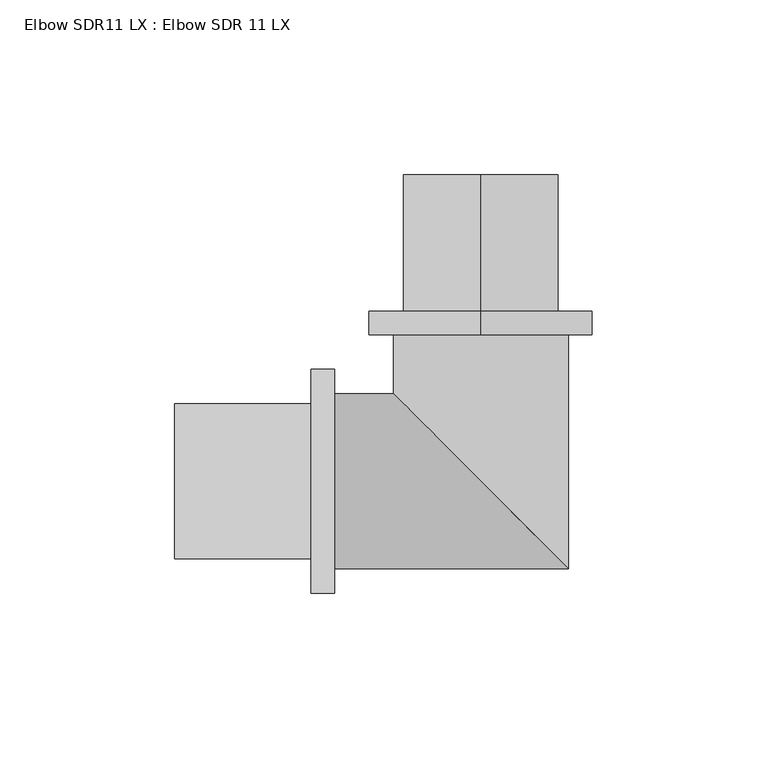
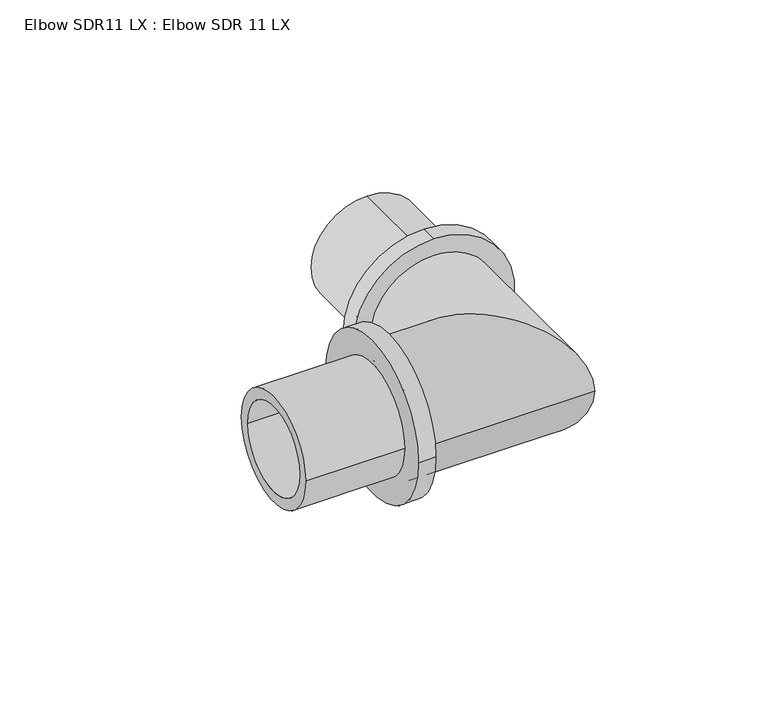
"""IFC4 building model written with IfcOpenShell, lengths in millimetres: pipe fitting geometry, Elbow SDR11 LX : Elbow SDR 11 LX."""

from ifc_helpers import new_model, si_unit, frame, origin, place, context, project, spatial, polyline, circle_curve, ellipse_curve, source, transform, mapped, element, save
from ifc_brep_helpers import plane_surface, cylinder_surface, revolved_surface, advanced_brep


def elbow_sdr11_lx_elbow_sdr_11_lx_6126e5dd(model_context):
    return source(origin(), model_context, "Body", "AdvancedBrep", [
        advanced_brep(
        [(-41.8, -25.0, 0.0), (-41.8, 25.0, 0.0), (-41.8, -17.75, 0.0), (-41.8, 17.75, 0.0), (25.0, -25.0, 0.0), (-25.0, 25.0, 0.0), (17.75, -17.75, 0.0), (-17.75, 17.75, 0.0), (25.0, 41.8, 0.0), (-25.0, 41.8, 0.0), (17.75, 41.8, 0.0), (-17.75, 41.8, 0.0)],
        [
            (0, 1, circle_curve(frame((-41.8, 0.0, 0.0), z_axis=(-1.0, 0.0, 0.0), x_axis=(0.0, 1.0, 0.0)), 25.0)),
            (1, 0, circle_curve(frame((-41.8, 0.0, 0.0), z_axis=(-1.0, 0.0, 0.0), x_axis=(0.0, 1.0, 0.0)), 25.0)),
            (2, 3, circle_curve(frame((-41.8, 0.0, 0.0), z_axis=(1.0, 0.0, 0.0), x_axis=(0.0, 1.0, 0.0)), 17.75)),
            (3, 2, circle_curve(frame((-41.8, 0.0, 0.0), z_axis=(1.0, 0.0, 0.0), x_axis=(0.0, 1.0, 0.0)), 17.75)),
            (0, 4),
            (4, 5, ellipse_curve(frame((0.0, 0.0, 0.0), z_axis=(-0.7071067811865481, -0.7071067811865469, 0.0), x_axis=(-0.7071067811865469, 0.7071067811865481, 0.0)), 35.3553391, 25.0)),
            (5, 1),
            (5, 4, ellipse_curve(frame((0.0, 0.0, 0.0), z_axis=(-0.7071067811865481, -0.7071067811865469, 0.0), x_axis=(-0.7071067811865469, 0.7071067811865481, 0.0)), 35.3553391, 25.0)),
            (2, 6),
            (6, 7, ellipse_curve(frame((0.0, 0.0, 0.0), z_axis=(0.7071067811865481, 0.7071067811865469, 0.0), x_axis=(0.7071067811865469, -0.7071067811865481, 0.0)), 25.1022907, 17.75)),
            (7, 3),
            (7, 6, ellipse_curve(frame((0.0, 0.0, 0.0), z_axis=(0.7071067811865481, 0.7071067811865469, 0.0), x_axis=(0.7071067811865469, -0.7071067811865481, 0.0)), 25.1022907, 17.75)),
            (8, 9, circle_curve(frame((0.0, 41.8, 0.0), z_axis=(0.0, 1.0, 0.0), x_axis=(-1.0, 0.0, 0.0)), 25.0)),
            (9, 8, circle_curve(frame((0.0, 41.8, 0.0), z_axis=(0.0, 1.0, 0.0), x_axis=(-1.0, 0.0, 0.0)), 25.0)),
            (10, 11, circle_curve(frame((0.0, 41.8, 0.0), z_axis=(0.0, -1.0, 0.0), x_axis=(-1.0, 0.0, 0.0)), 17.75)),
            (11, 10, circle_curve(frame((0.0, 41.8, 0.0), z_axis=(0.0, -1.0, 0.0), x_axis=(-1.0, 0.0, 0.0)), 17.75)),
            (4, 8),
            (9, 5),
            (6, 10),
            (11, 7),
        ],
        [
            plane_surface(frame((-41.8, 0.0, 0.0), z_axis=(-1.0, 0.0, 0.0), x_axis=(0.0, 0.0, 1.0))),
            cylinder_surface(frame((-41.8, 0.0, 0.0), z_axis=(-1.0, 0.0, 0.0), x_axis=(0.0, 1.0, 0.0)), 25.0),
            revolved_surface(polyline([(17.75, 17.75, 0.0), (-41.8, 17.75, 0.0)]), (-41.8, 0.0, 0.0), (1.0, 0.0, 0.0)),
            plane_surface(frame((0.0, 41.8, 0.0), z_axis=(0.0, 1.0, 0.0), x_axis=(0.0, 0.0, 1.0))),
            cylinder_surface(frame((0.0, 0.0, 0.0), z_axis=(0.0, -1.0, 0.0), x_axis=(-1.0, 0.0, 0.0)), 25.0),
            revolved_surface(polyline([(-17.75, 41.8, 0.0), (-17.75, -17.75, 0.0)]), (0.0, 0.0, 0.0), (0.0, 1.0, 0.0)),
        ],
        [
            (0, [[1, 2], [3, 4]]),
            (1, [[-1, 5, 6, 7]]),
            (1, [[-2, -7, 8, -5]]),
            (2, [[-3, 9, 10, 11]]),
            (2, [[-4, -11, 12, -9]]),
            (3, [[13, 14], [15, 16]]),
            (4, [[-6, 17, -14, 18]]),
            (4, [[-8, -18, -13, -17]]),
            (5, [[-10, 19, -16, 20]]),
            (5, [[-12, -20, -15, -19]]),
        ],
    ),
        advanced_brep(
        [(0.0, 87.5, 17.75), (0.0, 87.5, -17.75), (0.0, 41.8, -17.75), (0.0, 41.8, 17.75), (0.0, 48.5, 22.15), (0.0, 48.5, -22.15), (0.0, 87.5, -22.15), (0.0, 87.5, 22.15), (0.0, 41.8, 32.0), (0.0, 41.8, -32.0), (0.0, 48.5, -32.0), (0.0, 48.5, 32.0)],
        [
            (0, 1, circle_curve(frame((0.0, 87.5, 0.0), z_axis=(0.0, 1.0, 0.0), x_axis=(0.0, 0.0, -1.0)), 17.75)),
            (1, 2),
            (2, 3, circle_curve(frame((0.0, 41.8, 0.0), z_axis=(0.0, -1.0, 0.0), x_axis=(0.0, 0.0, -1.0)), 17.75)),
            (3, 0),
            (4, 5, circle_curve(frame((0.0, 48.5, 0.0), z_axis=(0.0, 1.0, 0.0), x_axis=(0.0, 0.0, -1.0)), 22.15)),
            (5, 6),
            (6, 7, circle_curve(frame((0.0, 87.5, 0.0), z_axis=(0.0, -1.0, 0.0), x_axis=(0.0, 0.0, -1.0)), 22.15)),
            (7, 4),
            (8, 9, circle_curve(frame((0.0, 41.8, 0.0), z_axis=(0.0, 1.0, 0.0), x_axis=(0.0, 0.0, -1.0)), 32.0)),
            (9, 10),
            (10, 11, circle_curve(frame((0.0, 48.5, 0.0), z_axis=(0.0, -1.0, 0.0), x_axis=(0.0, 0.0, -1.0)), 32.0)),
            (11, 8),
            (1, 0, circle_curve(frame((0.0, 87.5, 0.0), z_axis=(0.0, 1.0, 0.0), x_axis=(0.0, 0.0, 1.0)), 17.75)),
            (3, 2, circle_curve(frame((0.0, 41.8, 0.0), z_axis=(0.0, -1.0, 0.0), x_axis=(0.0, 0.0, 1.0)), 17.75)),
            (6, 7, circle_curve(frame((0.0, 87.5, 0.0), z_axis=(0.0, 1.0, 0.0), x_axis=(0.0, 0.0, 1.0)), 22.15)),
            (5, 4, circle_curve(frame((0.0, 48.5, 0.0), z_axis=(0.0, 1.0, 0.0), x_axis=(0.0, 0.0, 1.0)), 22.15)),
            (10, 11, circle_curve(frame((0.0, 48.5, 0.0), z_axis=(0.0, 1.0, 0.0), x_axis=(0.0, 0.0, 1.0)), 32.0)),
            (9, 8, circle_curve(frame((0.0, 41.8, 0.0), z_axis=(0.0, 1.0, 0.0), x_axis=(0.0, 0.0, 1.0)), 32.0)),
        ],
        [
            revolved_surface(polyline([(0.0, 41.8, -17.75), (0.0, 87.5, -17.75)]), (0.0, 0.0, 0.0), (0.0, -1.0, 0.0)),
            cylinder_surface(frame((0.0, 0.0, 0.0), z_axis=(0.0, -1.0, 0.0), x_axis=(0.0, 0.0, -1.0)), 22.15),
            cylinder_surface(frame((0.0, 0.0, 0.0), z_axis=(0.0, -1.0, 0.0), x_axis=(0.0, 0.0, -1.0)), 32.0),
            revolved_surface(polyline([(0.0, 41.8, 17.75), (0.0, 87.5, 17.75)]), (0.0, 0.0, 0.0), (0.0, -1.0, 0.0)),
            plane_surface(frame((0.0, 87.5, 0.0), z_axis=(0.0, 1.0, 0.0), x_axis=(0.0, 0.0, 1.0))),
            cylinder_surface(frame((0.0, 0.0, 0.0), z_axis=(0.0, -1.0, 0.0), x_axis=(0.0, 0.0, 1.0)), 22.15),
            plane_surface(frame((0.0, 48.5, 0.0), z_axis=(0.0, 1.0, 0.0), x_axis=(0.0, 0.0, 1.0))),
            cylinder_surface(frame((0.0, 0.0, 0.0), z_axis=(0.0, -1.0, 0.0), x_axis=(0.0, 0.0, 1.0)), 32.0),
            plane_surface(frame((0.0, 41.8, 0.0), z_axis=(0.0, -1.0, 0.0), x_axis=(0.0, 0.0, 1.0))),
        ],
        [
            (0, [[1, 2, 3, 4]]),
            (1, [[5, 6, 7, 8]]),
            (2, [[9, 10, 11, 12]]),
            (3, [[13, -4, 14, -2]]),
            (4, [[15, -7], [-13, -1]]),
            (5, [[16, -8, -15, -6]]),
            (6, [[17, -11], [-16, -5]]),
            (7, [[18, -12, -17, -10]]),
            (8, [[-18, -9], [-14, -3]]),
        ],
    ),
        advanced_brep(
        [(-41.8, 32.0, 0.0), (-41.8, -32.0, 0.0), (-48.5, -32.0, 0.0), (-48.5, 32.0, 0.0), (-48.5, 22.15, 0.0), (-48.5, -22.15, 0.0), (-87.5, -22.15, 0.0), (-87.5, 22.15, 0.0), (-87.5, 17.75, 0.0), (-87.5, -17.75, 0.0), (-41.8, -17.75, 0.0), (-41.8, 17.75, 0.0)],
        [
            (0, 1, circle_curve(frame((-41.8, 0.0, 0.0), z_axis=(-1.0, 0.0, 0.0), x_axis=(0.0, -1.0, 0.0)), 32.0)),
            (1, 2),
            (2, 3, circle_curve(frame((-48.5, 0.0, 0.0), z_axis=(1.0, 0.0, 0.0), x_axis=(0.0, -1.0, 0.0)), 32.0)),
            (3, 0),
            (4, 5, circle_curve(frame((-48.5, 0.0, 0.0), z_axis=(-1.0, 0.0, 0.0), x_axis=(0.0, -1.0, 0.0)), 22.15)),
            (5, 6),
            (6, 7, circle_curve(frame((-87.5, 0.0, 0.0), z_axis=(1.0, 0.0, 0.0), x_axis=(0.0, -1.0, 0.0)), 22.15)),
            (7, 4),
            (8, 9, circle_curve(frame((-87.5, 0.0, 0.0), z_axis=(-1.0, 0.0, 0.0), x_axis=(0.0, -1.0, 0.0)), 17.75)),
            (9, 10),
            (10, 11, circle_curve(frame((-41.8, 0.0, 0.0), z_axis=(1.0, 0.0, 0.0), x_axis=(0.0, -1.0, 0.0)), 17.75)),
            (11, 8),
            (0, 1, circle_curve(frame((-41.8, 0.0, 0.0), z_axis=(1.0, 0.0, 0.0), x_axis=(0.0, 1.0, 0.0)), 32.0)),
            (10, 11, circle_curve(frame((-41.8, 0.0, 0.0), z_axis=(-1.0, 0.0, 0.0), x_axis=(0.0, 1.0, 0.0)), 17.75)),
            (3, 2, circle_curve(frame((-48.5, 0.0, 0.0), z_axis=(1.0, 0.0, 0.0), x_axis=(0.0, 1.0, 0.0)), 32.0)),
            (4, 5, circle_curve(frame((-48.5, 0.0, 0.0), z_axis=(1.0, 0.0, 0.0), x_axis=(0.0, 1.0, 0.0)), 22.15)),
            (7, 6, circle_curve(frame((-87.5, 0.0, 0.0), z_axis=(1.0, 0.0, 0.0), x_axis=(0.0, 1.0, 0.0)), 22.15)),
            (8, 9, circle_curve(frame((-87.5, 0.0, 0.0), z_axis=(1.0, 0.0, 0.0), x_axis=(0.0, 1.0, 0.0)), 17.75)),
        ],
        [
            cylinder_surface(frame((0.0, 0.0, 0.0), z_axis=(1.0, 0.0, 0.0), x_axis=(0.0, -1.0, 0.0)), 32.0),
            cylinder_surface(frame((0.0, 0.0, 0.0), z_axis=(1.0, 0.0, 0.0), x_axis=(0.0, -1.0, 0.0)), 22.15),
            revolved_surface(polyline([(-41.8, -17.75, 0.0), (-87.5, -17.75, 0.0)]), (0.0, 0.0, 0.0), (1.0, 0.0, 0.0)),
            plane_surface(frame((-41.8, 0.0, 0.0), z_axis=(1.0, 0.0, 0.0), x_axis=(0.0, 1.0, 0.0))),
            cylinder_surface(frame((0.0, 0.0, 0.0), z_axis=(1.0, 0.0, 0.0), x_axis=(0.0, 1.0, 0.0)), 32.0),
            plane_surface(frame((-48.5, 0.0, 0.0), z_axis=(-1.0, 0.0, 0.0), x_axis=(0.0, 1.0, 0.0))),
            cylinder_surface(frame((0.0, 0.0, 0.0), z_axis=(1.0, 0.0, 0.0), x_axis=(0.0, 1.0, 0.0)), 22.15),
            plane_surface(frame((-87.5, 0.0, 0.0), z_axis=(-1.0, 0.0, 0.0), x_axis=(0.0, 1.0, 0.0))),
            revolved_surface(polyline([(-41.8, 17.75, 0.0), (-87.5, 17.75, 0.0)]), (0.0, 0.0, 0.0), (1.0, 0.0, 0.0)),
        ],
        [
            (0, [[1, 2, 3, 4]]),
            (1, [[5, 6, 7, 8]]),
            (2, [[9, 10, 11, 12]]),
            (3, [[13, -1], [14, -11]]),
            (4, [[-13, -4, 15, -2]]),
            (5, [[-15, -3], [16, -5]]),
            (6, [[-16, -8, 17, -6]]),
            (7, [[-17, -7], [18, -9]]),
            (8, [[-18, -12, -14, -10]]),
        ],
    ),
    ])


if __name__ == "__main__":
    model = new_model("IFC4")
    model_context = context("Model", 3, world=origin())
    ifc_project = project(units=[si_unit("LENGTHUNIT", "METRE", prefix="MILLI")], contexts=[model_context])
    site = spatial("IfcSite", under=ifc_project)
    building = spatial("IfcBuilding", under=site)
    placement = place(None, origin())
    elbow_sdr11_lx_elbow_sdr_11_lx_shape = elbow_sdr11_lx_elbow_sdr_11_lx_6126e5dd(model_context)
    element("IfcPipeFitting", 1, ObjectType="Elbow SDR11 LX : Elbow SDR 11 LX", at=placement, inside=building, context=model_context, shape_type="MappedRepresentation", body=[
        mapped(elbow_sdr11_lx_elbow_sdr_11_lx_shape, transform((0.0, 0.0, 0.0), x_axis=(1.0, 0.0, 0.0), y_axis=(0.0, 1.0, 0.0), z_axis=(0.0, 0.0, 1.0))),
    ])
    save(model, "model.ifc")
